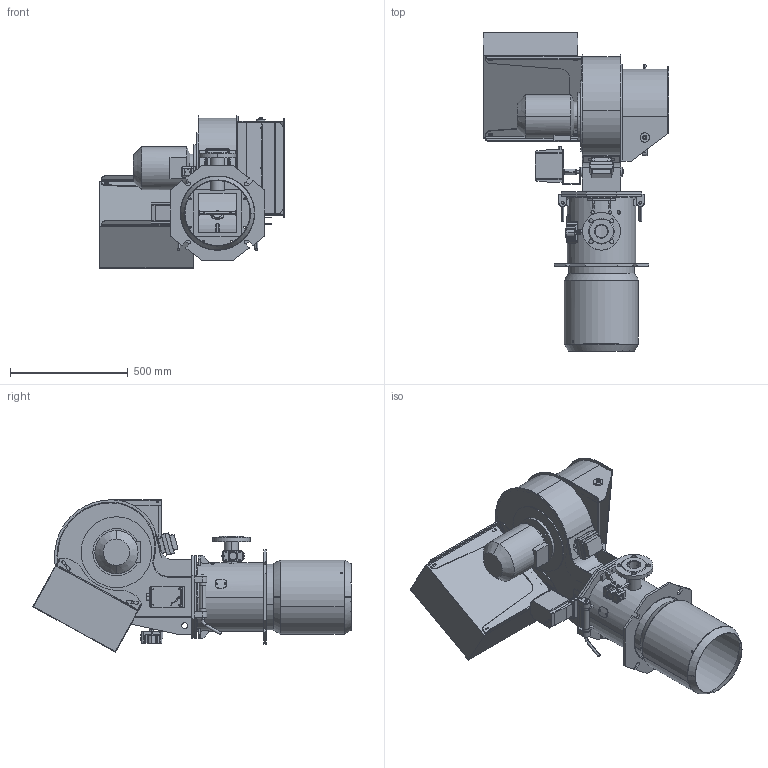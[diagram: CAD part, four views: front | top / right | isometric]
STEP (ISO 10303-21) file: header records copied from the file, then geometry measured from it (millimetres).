
FILE_DESCRIPTION (( 'STEP AP214' ), '1' );
FILE_NAME ('Ò - 2.165 G.STEP', '2020-11-25T15:32:13', ( 'Pavel' ), ( '' ), 'SwSTEP 2.0', 'SolidWorks 2016', '' );
FILE_SCHEMA (( 'AUTOMOTIVE_DESIGN' ));
Length unit declared in the file: millimetre
Products named in the file (2): ﾒ - 2.165 G
Bounding box: 786 x 1350.38 x 646.74 mm (x, y, z)
Volume: 19062249.5 mm3; surface area: 6750959.7 mm2
Topology: 75 solids, 76 shells, 1976 faces, 5139 edges, 3319 vertices
Faces by surface type: cylinder 838, plane 835, bspline 170, cone 125, torus 8
Entity records: 97783 total; most frequent: CARTESIAN_POINT 26819, ORIENTED_EDGE 10232, DIRECTION 9567, EDGE_CURVE 5116, AXIS2_PLACEMENT_3D 3330, VERTEX_POINT 3316, VECTOR 2907, LINE 2907
